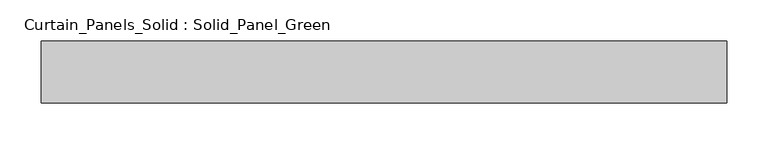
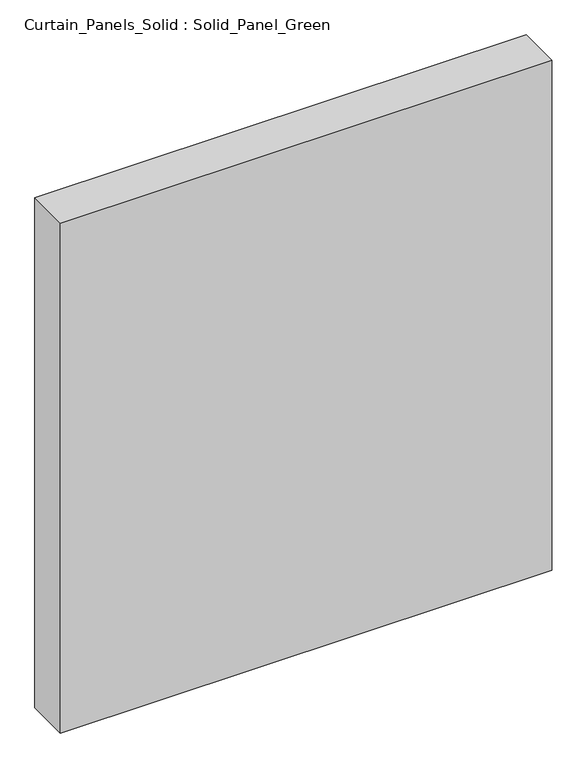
"""IFC4 building model written with IfcOpenShell, lengths in millimetres: plate geometry, Curtain_Panels_Solid : Solid_Panel_Green."""

from ifc_helpers import new_model, si_unit, origin, origin_with_axes, place, context, project, spatial, polyline, outline, extrude, source, transform, mapped, element, save


def curtain_panels_solid_solid_panel_green_e697928e(model_context):
    return source(origin(), model_context, "Body", "SweptSolid", [
        extrude(outline(polyline([(415.6418034, 25.0), (415.6418034, -50.0), (-415.6418034, -50.0), (-415.6418034, 25.0), (415.6418034, 25.0)])), origin_with_axes(), (0.0, 0.0, 1.0), 912.5),
    ])


if __name__ == "__main__":
    model = new_model("IFC4")
    model_context = context("Model", 3, world=origin())
    ifc_project = project(units=[si_unit("LENGTHUNIT", "METRE", prefix="MILLI")], contexts=[model_context])
    site = spatial("IfcSite", under=ifc_project)
    building = spatial("IfcBuilding", under=site)
    placement = place(None, origin())
    curtain_panels_solid_solid_panel_green_shape = curtain_panels_solid_solid_panel_green_e697928e(model_context)
    element("IfcPlate", 1, ObjectType="Curtain_Panels_Solid : Solid_Panel_Green", at=placement, inside=building, context=model_context, shape_type="MappedRepresentation", body=[
        mapped(curtain_panels_solid_solid_panel_green_shape, transform((0.0, 0.0, 0.0), x_axis=(1.0, 0.0, 0.0), y_axis=(0.0, 1.0, 0.0), z_axis=(0.0, 0.0, 1.0))),
    ])
    save(model, "model.ifc")
